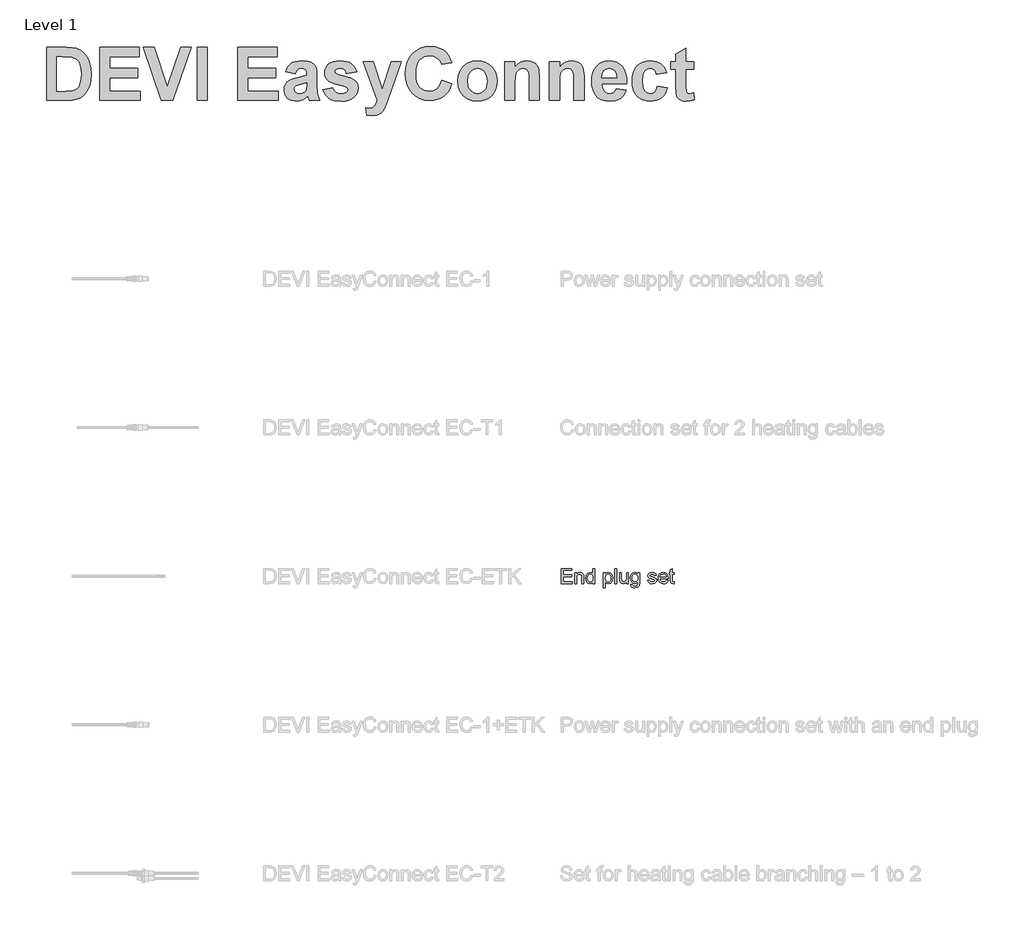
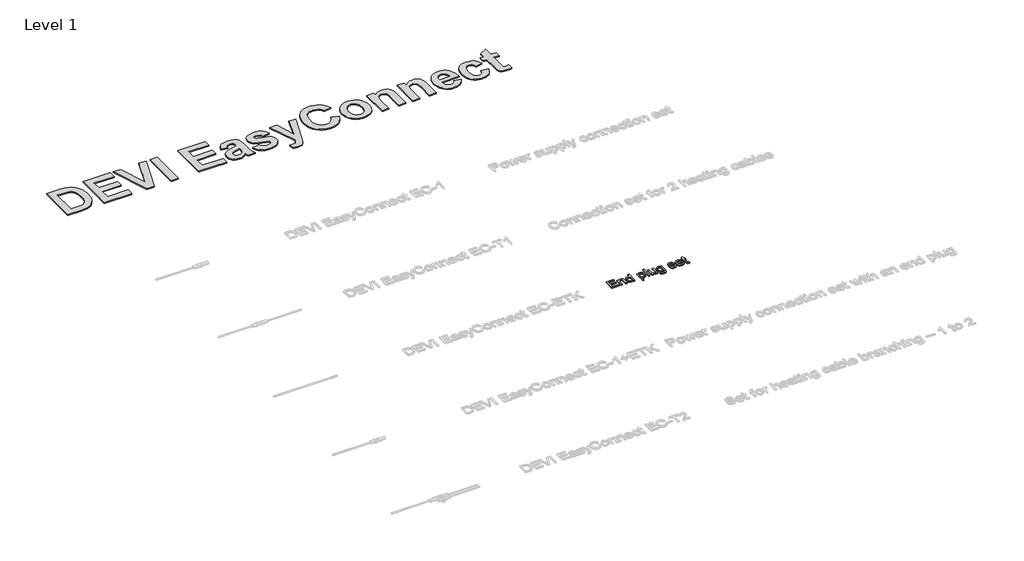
# One storey, part 9 of 11: 2 proxies.
"""IFC4 building model written with IfcOpenShell, lengths in millimetres."""

from ifc_helpers import new_model, si_unit, origin, origin_with_axes, place, context, project, spatial, polyline, outline, extrude, element, save

model = new_model("IFC4")

# Units and contexts
model_context = context("Model", 3, world=origin())
ifc_project = project(units=[si_unit("LENGTHUNIT", "METRE", prefix="MILLI")], contexts=[model_context])

# Site, building, storey
site = spatial("IfcSite", under=ifc_project)
building = spatial("IfcBuilding", under=site)
storey = spatial("IfcBuildingStorey", under=building, Name="Level 1", Elevation=0.0)

# Proxies
placement = place(None, origin())
element("IfcBuildingElementProxy", 1, Name="100mm Arial", ObjectType="100mm Arial", at=placement, inside=storey, context=model_context, shape_type="SweptSolid", body=[
    extrude(outline(polyline([(4544.9544754, 4516.7341496), (4544.9544754, 4617.1904598), (4617.1574483, 4617.1904598), (4617.1574483, 4604.633421), (4557.5115141, 4604.633421), (4557.5115141, 4574.8104539), (4614.0181886, 4574.8104539), (4614.0181886, 4562.2534151), (4557.5115141, 4562.2534151), (4557.5115141, 4529.2911884), (4618.7270781, 4529.2911884), (4618.7270781, 4516.7341496), (4544.9544754, 4516.7341496)])), origin_with_axes(), (0.0, 0.0, 1.0), 10.0),
    extrude(outline(polyline([(4635.9930064, 4516.7341496), (4635.9930064, 4590.5067524), (4648.5500452, 4590.5067524), (4648.5500452, 4580.2060565), (4658.1517653, 4589.1088008), (4671.260627, 4592.0763822), (4683.11869, 4589.6851493), (4691.2120939, 4583.4066299), (4694.976753, 4574.1727918), (4695.6389406, 4562.0326859), (4695.6389406, 4516.7341496), (4683.0819018, 4516.7341496), (4683.0819018, 4560.3404288), (4681.6348993, 4571.450465), (4676.5213396, 4577.3243142), (4667.9006381, 4579.5193435), (4654.2767416, 4574.5897247), (4649.9817193, 4567.4466826), (4648.5500452, 4555.8767939), (4648.5500452, 4516.7341496), (4635.9930064, 4516.7341496)])), origin_with_axes(), (0.0, 0.0, 1.0), 10.0),
    extrude(outline(polyline([(4758.4241344, 4516.7341496), (4758.4241344, 4528.5799499), (4750.1161327, 4518.5183773), (4738.6320831, 4515.1645198), (4723.0829374, 4520.0205621), (4712.0955285, 4533.5708823), (4708.1959793, 4553.5468746), (4711.7889602, 4573.5351297), (4722.5556399, 4587.2939163), (4738.5830322, 4592.0763822), (4750.1590523, 4588.6550797), (4758.4241344, 4579.7645981), (4758.4241344, 4617.1904598), (4770.9811732, 4617.1904598), (4770.9811732, 4516.7341496), (4758.4241344, 4516.7341496)]), holes=[polyline([(4720.7530181, 4553.5959255), (4722.1693638, 4542.2375689), (4726.4184008, 4534.1594934), (4732.592687, 4529.3310423), (4739.78478, 4527.7215585), (4746.9738073, 4529.2574659), (4752.9917436, 4533.8651879), (4757.0660367, 4541.6305636), (4758.4241344, 4552.6394323), (4757.0415113, 4564.6753049), (4752.8936418, 4573.0200949), (4746.7224213, 4577.8945313), (4739.2697452, 4579.5193435), (4732.0040758, 4577.9589107), (4726.0505188, 4573.2776123), (4722.0773933, 4565.236325), (4720.7530181, 4553.5959255)])]), origin_with_axes(), (0.0, 0.0, 1.0), 10.0),
    extrude(outline(polyline([(4829.0574775, 4488.4808124), (4829.0574775, 4590.5067524), (4841.6145163, 4590.5067524), (4841.6145163, 4578.1949683), (4850.2965314, 4588.6060287), (4862.0197043, 4592.0763822), (4877.9367319, 4587.2203399), (4888.3355297, 4573.5351297), (4891.8426713, 4554.1845367), (4887.8818085, 4533.8406624), (4876.3793648, 4519.9837739), (4860.4991254, 4515.1645198), (4849.5730301, 4518.3896186), (4841.6145163, 4526.5443361), (4841.6145163, 4488.4808124), (4829.0574775, 4488.4808124)]), holes=[polyline([(4841.6145163, 4553.0318398), (4842.972614, 4541.7746507), (4847.0469071, 4533.9019761), (4853.058712, 4529.2666629), (4860.2293452, 4527.7215585), (4867.5164744, 4529.3218452), (4873.6815635, 4534.1227052), (4877.8846153, 4542.2835542), (4879.2856326, 4553.9638075), (4877.9183378, 4565.1596829), (4873.8164536, 4573.1427222), (4867.8138457, 4577.9251881), (4860.74438, 4579.5193435), (4853.6473232, 4577.8240206), (4847.4147891, 4572.738052), (4843.0645845, 4564.4208532), (4841.6145163, 4553.0318398)])]), origin_with_axes(), (0.0, 0.0, 1.0), 10.0),
    extrude(outline(polyline([(4905.96934, 4516.7341496), (4905.96934, 4617.1904598), (4918.5263787, 4617.1904598), (4918.5263787, 4516.7341496), (4905.96934, 4516.7341496)])), origin_with_axes(), (0.0, 0.0, 1.0), 10.0),
    extrude(outline(polyline([(4984.4508323, 4516.7341496), (4984.4508323, 4529.4138157), (4974.6161203, 4518.7268438), (4961.7893014, 4515.1645198), (4949.9802893, 4517.6661173), (4941.8378345, 4523.9446367), (4938.0977009, 4533.1907375), (4937.3619369, 4544.8648595), (4937.3619369, 4590.5067524), (4949.9189756, 4590.5067524), (4949.9189756, 4550.7754969), (4950.6792651, 4537.9732035), (4955.645672, 4530.456148), (4965.0021374, 4527.7215585), (4975.4867743, 4530.5174617), (4982.4152186, 4538.132619), (4984.4508323, 4552.1243975), (4984.4508323, 4590.5067524), (4997.007871, 4590.5067524), (4997.007871, 4516.7341496), (4984.4508323, 4516.7341496)])), origin_with_axes(), (0.0, 0.0, 1.0), 10.0),
    extrude(outline(polyline([(5011.1345396, 4510.4556302), (5023.6915784, 4508.8860004), (5027.7628058, 4502.2641245), (5039.9519626, 4499.4682213), (5052.803307, 4502.6320065), (5058.9346736, 4511.5102253), (5059.7930649, 4526.1519287), (5050.9516343, 4519.0885944), (5040.1726918, 4516.7341496), (5027.2263112, 4519.4748705), (5017.5724746, 4527.6970331), (5011.566801, 4539.7512998), (5009.5649098, 4553.988333), (5013.1578906, 4573.4492905), (5023.5566883, 4587.2203399), (5039.5595551, 4592.0763822), (5050.7615619, 4589.32953), (5059.7930649, 4581.0889733), (5059.7930649, 4590.5067524), (5072.3501036, 4590.5067524), (5072.3501036, 4526.8141163), (5068.9165384, 4502.42354), (5058.039494, 4491.0805118), (5039.7067079, 4486.9111825), (5028.0233889, 4488.3796448), (5018.8232733, 4492.7850317), (5012.921833, 4500.1396059), (5011.1345396, 4510.4556302)]), holes=[polyline([(5022.1219486, 4554.8467243), (5023.4616522, 4543.3289522), (5027.480763, 4535.4102922), (5033.5232247, 4530.8209643), (5040.9329813, 4529.2911884), (5048.2875555, 4530.8117673), (5054.3606741, 4535.373504), (5058.4349672, 4543.1909964), (5059.7930649, 4554.4788423), (5058.3951133, 4565.3650837), (5054.2012585, 4573.2040359), (5048.0392351, 4577.9405166), (5040.7367775, 4579.5193435), (5033.5661443, 4577.965042), (5027.5543394, 4573.3021377), (5023.4800463, 4565.5796815), (5022.1219486, 4554.8467243)])]), origin_with_axes(), (0.0, 0.0, 1.0), 10.0),
    extrude(outline(polyline([(5125.7175184, 4538.7089675), (5138.2745572, 4540.2785973), (5144.0870927, 4530.9589201), (5157.4044209, 4527.7215585), (5170.2067144, 4530.68914), (5174.3760436, 4537.6543724), (5170.1821889, 4543.2952297), (5157.2572681, 4546.8759477), (5138.3481336, 4553.0195771), (5130.0953142, 4560.193276), (5127.2871483, 4570.3222936), (5129.5434912, 4579.678759), (5135.6993832, 4586.8279324), (5143.6824225, 4590.5435406), (5154.4858904, 4592.0763822), (5169.765256, 4589.6115729), (5179.4773406, 4582.940646), (5183.7938227, 4571.6711942), (5171.2367839, 4570.1015644), (5166.5156317, 4577.0300086), (5155.4669091, 4579.5193435), (5143.4494306, 4577.1403732), (5139.844187, 4571.5976178), (5141.3402405, 4567.9433233), (5146.0246045, 4565.1719456), (5156.8403352, 4562.4986698), (5175.2712232, 4556.5880324), (5183.8306109, 4549.8925801), (5186.9330824, 4538.9787476), (5183.2910507, 4526.9612691), (5172.7818883, 4518.2424658), (5157.2327427, 4515.1645198), (5144.5714707, 4516.6483105), (5135.3315012, 4521.0996826), (5129.1633464, 4528.4695853), (5125.7175184, 4538.7089675)])), origin_with_axes(), (0.0, 0.0, 1.0), 10.0),
    extrude(outline(polyline([(5252.7103831, 4538.7089675), (5265.0221672, 4537.1393376), (5260.5861235, 4527.86258), (5253.5074608, 4520.9280044), (5243.9455946, 4516.6053909), (5232.0599405, 4515.1645198), (5217.3262666, 4517.6507889), (5205.9893698, 4525.1095964), (5198.7604886, 4537.0565642), (5196.3508615, 4553.0073143), (5198.785014, 4569.4945591), (5206.0874716, 4581.8247373), (5217.2710843, 4589.513471), (5231.348702, 4592.0763822), (5244.9879269, 4589.5196024), (5255.886431, 4581.8492628), (5263.0325388, 4569.54361), (5265.4145747, 4553.0808907), (5265.3409983, 4549.6963764), (5208.9079003, 4549.6963764), (5211.0814697, 4540.2969914), (5216.1306501, 4533.3869413), (5223.4177793, 4529.1379042), (5232.3051951, 4527.7215585), (5244.6169792, 4530.3457834), (5252.7103831, 4538.7089675)]), holes=[polyline([(5208.9079003, 4562.2534151), (5252.8575359, 4562.2534151), (5247.8298153, 4573.6332315), (5240.5089636, 4578.0478155), (5231.299651, 4579.5193435), (5215.8363445, 4574.8227166), (5210.9711051, 4569.3320779), (5208.9079003, 4562.2534151)])]), origin_with_axes(), (0.0, 0.0, 1.0), 10.0),
    extrude(outline(polyline([(5304.6553209, 4527.2065237), (5306.2249507, 4516.3662676), (5296.8316971, 4515.1645198), (5286.310272, 4517.2491844), (5281.0618222, 4522.7183634), (5279.5412433, 4536.9676593), (5279.5412433, 4577.9497136), (5270.1234642, 4577.9497136), (5270.1234642, 4590.5067524), (5279.5412433, 4590.5067524), (5279.5412433, 4608.4348683), (5292.0982821, 4615.8170336), (5292.0982821, 4590.5067524), (5304.6553209, 4590.5067524), (5304.6553209, 4577.9497136), (5292.0982821, 4577.9497136), (5292.0982821, 4537.3355413), (5292.7604697, 4530.8608182), (5294.906448, 4528.5676871), (5299.1861419, 4527.7215585), (5304.6553209, 4527.2065237)])), origin_with_axes(), (0.0, 0.0, 1.0), 10.0),
])
element("IfcBuildingElementProxy", 2, Name="350mm Arial", ObjectType="350mm Arial", at=placement, inside=storey, context=model_context, shape_type="SweptSolid", body=[
    extrude(outline(polyline([(1081.9304172, 8123.8249396), (1214.156744, 8123.8249396), (1253.5678059, 8122.1200791), (1282.3511657, 8117.0054974), (1311.6216285, 8104.1304792), (1336.3753179, 8084.1039031), (1356.1804836, 8057.8446225), (1370.605375, 8026.2714909), (1379.4064408, 7988.044975), (1382.3401294, 7941.8255414), (1379.5946397, 7900.8203242), (1371.3581706, 7865.8374715), (1355.0180787, 7830.5889263), (1332.9213147, 7802.7797725), (1310.8245508, 7786.5282447), (1282.0854731, 7774.2621053), (1254.121332, 7768.6161385), (1218.0535681, 7766.7341496), (1081.9304172, 7766.7341496), (1081.9304172, 8123.8249396)]), holes=[polyline([(1149.9477106, 8061.475754), (1149.9477106, 7829.0833352), (1207.8686869, 7829.0833352), (1254.8077044, 7832.4487742), (1272.0666498, 7838.2165166), (1286.1151435, 7847.0175824), (1297.4181475, 7860.6453962), (1306.4406237, 7880.8933828), (1312.352283, 7908.7468187), (1314.3228361, 7945.1909804), (1312.352283, 7981.1258981), (1306.4406237, 8007.6287302), (1296.9974676, 8027.0242865), (1284.432424, 8041.6373768), (1268.3912362, 8051.8665401), (1248.5196474, 8058.110315), (1184.8419991, 8061.475754), (1149.9477106, 8061.475754)])]), origin_with_axes(), (0.0, 0.0, 1.0), 10.0),
    extrude(outline(polyline([(1439.0212072, 7766.7341496), (1439.0212072, 8123.8249396), (1705.4222728, 8123.8249396), (1705.4222728, 8061.475754), (1507.0385005, 8061.475754), (1507.0385005, 7982.1222452), (1694.0860572, 7982.1222452), (1694.0860572, 7919.7730596), (1507.0385005, 7919.7730596), (1507.0385005, 7829.0833352), (1711.0903805, 7829.0833352), (1711.0903805, 7766.7341496), (1439.0212072, 7766.7341496)])), origin_with_axes(), (0.0, 0.0, 1.0), 10.0),
    extrude(outline(polyline([(1854.1215377, 7766.7341496), (1733.7628116, 8123.8249396), (1805.4998007, 8123.8249396), (1895.3038833, 7857.4238741), (1985.3736585, 8123.8249396), (2056.844955, 8123.8249396), (1930.1096076, 7766.7341496), (1854.1215377, 7766.7341496)])), origin_with_axes(), (0.0, 0.0, 1.0), 10.0),
    extrude(outline(polyline([(2096.5217094, 7766.7341496), (2096.5217094, 8123.8249396), (2164.5390027, 8123.8249396), (2164.5390027, 7766.7341496), (2096.5217094, 7766.7341496)])), origin_with_axes(), (0.0, 0.0, 1.0), 10.0),
    extrude(outline(polyline([(2368.5908827, 7766.7341496), (2368.5908827, 8123.8249396), (2634.9919483, 8123.8249396), (2634.9919483, 8061.475754), (2436.6081761, 8061.475754), (2436.6081761, 7982.1222452), (2623.6557327, 7982.1222452), (2623.6557327, 7919.7730596), (2436.6081761, 7919.7730596), (2436.6081761, 7829.0833352), (2640.660056, 7829.0833352), (2640.660056, 7766.7341496), (2368.5908827, 7766.7341496)])), origin_with_axes(), (0.0, 0.0, 1.0), 10.0),
    extrude(outline(polyline([(2754.0222116, 7948.1135985), (2691.673026, 7959.449814), (2705.1901346, 7992.129998), (2725.9030832, 8015.0681216), (2739.5281294, 8022.972475), (2756.0923994, 8028.6184418), (2798.0386111, 8033.1352152), (2835.9662229, 8030.400796), (2862.7790296, 8022.1975384), (2880.8904052, 8009.7985527), (2892.7137238, 7994.4769488), (2899.2231913, 7970.6642538), (2901.3930138, 7932.7919947), (2901.3930138, 7852.3757156), (2904.9798633, 7801.7170023), (2918.3973371, 7766.7341496), (2850.3800438, 7766.7341496), (2844.0034226, 7788.3438105), (2841.6121896, 7796.9345364), (2824.010058, 7781.2697463), (2805.21231, 7770.0553065), (2785.1746633, 7763.313358), (2763.852836, 7761.0660418), (2729.1688875, 7766.5238097), (2714.9072862, 7773.3460195), (2702.699267, 7782.8971132), (2685.9274246, 7807.59545), (2680.3368105, 7838.0283177), (2682.8276782, 7858.8851831), (2690.3002812, 7877.3508155), (2702.2675166, 7892.6059962), (2718.2422812, 7903.8315065), (2740.1840578, 7912.4443734), (2770.0523289, 7919.8616238), (2833.3757205, 7936.7773829), (2833.3757205, 7943.9510818), (2831.2612506, 7961.6196366), (2824.9178409, 7973.3543909), (2812.7291951, 7979.9302816), (2793.0790167, 7982.1222452), (2778.9751704, 7980.2402562), (2768.3696094, 7974.5942895), (2760.3545508, 7964.2101389), (2754.0222116, 7948.1135985)]), holes=[polyline([(2833.3757205, 7885.7644129), (2795.0274288, 7876.3323273), (2760.6645254, 7865.571779), (2751.4317092, 7855.8961419), (2748.3541038, 7843.8735539), (2750.8228304, 7831.8177543), (2758.2290103, 7821.5110974), (2769.4434501, 7814.4370332), (2783.3369565, 7812.0790118), (2800.0091641, 7814.8245015), (2815.840012, 7823.0609706), (2825.3606618, 7832.3159279), (2830.8959233, 7843.430733), (2833.3757205, 7873.4539914), (2833.3757205, 7885.7644129)])]), origin_with_axes(), (0.0, 0.0, 1.0), 10.0),
    extrude(outline(polyline([(2941.0697683, 7840.4195507), (3009.0870616, 7851.7557663), (3015.5633175, 7834.6185967), (3026.4899237, 7822.1753288), (3042.243278, 7814.6030911), (3063.199778, 7812.0790118), (3085.9386323, 7814.4923858), (3102.2565832, 7821.7325079), (3108.898897, 7829.6147203), (3111.1130016, 7839.7996014), (3106.4190998, 7852.5528439), (3084.1894896, 7861.4978265), (3018.4970061, 7878.9006887), (2982.2521138, 7894.7979597), (2969.1944319, 7906.361121), (2959.8675163, 7919.972329), (2954.2713669, 7935.6315838), (2952.4059838, 7953.3388853), (2954.0056744, 7969.5405958), (2958.8047461, 7984.4027729), (2966.803199, 7997.9254167), (2978.001033, 8010.1085273), (2992.564306, 8020.1827032), (3010.6590759, 8027.3785432), (3032.2853425, 8031.6960472), (3057.4431061, 8033.1352152), (3102.0573138, 8028.4855955), (3119.4324996, 8022.6735709), (3133.5197401, 8014.5367365), (3154.5315928, 7991.4657666), (3167.7940794, 7959.449814), (3099.776786, 7948.1135985), (3094.7729096, 7962.6602657), (3086.6692868, 7973.3543909), (3074.9788145, 7979.9302816), (3059.2143897, 7982.1222452), (3039.8409745, 7980.2623973), (3026.8884626, 7974.6828537), (3022.0395735, 7968.571925), (3020.4232771, 7960.866841), (3022.0395735, 7954.2023861), (3026.8884626, 7948.5564194), (3046.2729484, 7940.4306555), (3087.0678256, 7929.5151198), (3130.785321, 7915.7655303), (3158.937661, 7899.1376047), (3174.0821364, 7877.1958281), (3179.1302949, 7848.0360705), (3177.300891, 7830.8186396), (3171.8126792, 7814.8577131), (3162.6656596, 7800.1532909), (3149.8598321, 7786.7053731), (3133.4671552, 7775.4881657), (3113.5595872, 7767.4758747), (3090.1371281, 7762.6685), (3063.199778, 7761.0660418), (3016.5596646, 7766.4020339), (2997.316328, 7773.072024), (2980.7908048, 7782.4100102), (2966.9332776, 7794.0395946), (2955.6939291, 7807.5843795), (2941.0697683, 7840.4195507)])), origin_with_axes(), (0.0, 0.0, 1.0), 10.0),
    extrude(outline(polyline([(3213.1389416, 8027.4671074), (3281.1562349, 8027.4671074), (3340.6713666, 7842.8993479), (3400.1864982, 8027.4671074), (3468.2037916, 8027.4671074), (3379.9938643, 7777.6275442), (3363.6094902, 7731.2199118), (3347.4465266, 7698.1854712), (3329.7779719, 7679.6755567), (3305.2014109, 7668.6493158), (3272.2998165, 7664.7082096), (3235.8113727, 7668.6050337), (3230.1432649, 7718.9980544), (3257.155341, 7715.7211796), (3276.4291216, 7719.3190996), (3289.9683712, 7730.1128595), (3299.3893863, 7746.464022), (3306.3084632, 7766.7341496), (3213.1389416, 8027.4671074)])), origin_with_axes(), (0.0, 0.0, 1.0), 10.0),
    extrude(outline(polyline([(3740.2729649, 7902.7687363), (3808.2902582, 7880.0963052), (3798.8969194, 7853.2032372), (3786.8355846, 7830.0021886), (3772.1062538, 7810.4931594), (3754.7089269, 7794.6761497), (3734.7155623, 7782.4515246), (3712.1981186, 7773.7196496), (3687.1565955, 7768.4805246), (3659.5909932, 7766.7341496), (3625.5325292, 7769.7176556), (3594.6513053, 7778.6681734), (3566.9473215, 7793.5857032), (3542.4205778, 7814.4702448), (3522.3497196, 7840.5302559), (3508.0133923, 7870.9741942), (3499.4115959, 7905.8020596), (3496.5443305, 7945.0138521), (3499.4365046, 7986.3622555), (3508.113027, 8022.8174877), (3522.5738977, 8054.3795488), (3542.8191166, 8081.0484387), (3567.7803783, 8102.242955), (3596.3893774, 8117.3818952), (3628.6461138, 8126.4652593), (3664.5505875, 8129.4930474), (3695.9465908, 8126.9966444), (3724.2428476, 8119.5074356), (3749.4393579, 8107.0254209), (3771.5361218, 8089.5506004), (3792.9907954, 8060.8336637), (3808.2902582, 8021.7989996), (3740.2729649, 8010.462784), (3729.8556027, 8033.9876454), (3712.0652723, 8051.9551043), (3688.2747183, 8063.3466724), (3659.8566858, 8067.1438618), (3639.6446784, 8065.4196279), (3621.4309004, 8060.246926), (3605.2153519, 8051.6257562), (3590.9980327, 8039.5561185), (3579.4321038, 8023.6284035), (3571.170726, 8003.4330019), (3566.2138993, 7978.9699137), (3564.5616238, 7950.2391389), (3566.164082, 7919.8284122), (3570.9714566, 7894.1337283), (3578.9837476, 7873.1550872), (3590.2009551, 7856.8924889), (3603.9865238, 7844.7259842), (3619.7038989, 7836.0356236), (3637.3530802, 7830.8214073), (3656.9340677, 7829.0833352), (3685.0421256, 7833.5226149), (3708.9655258, 7846.8404541), (3727.7079213, 7869.7010841), (3740.2729649, 7902.7687363)])), origin_with_axes(), (0.0, 0.0, 1.0), 10.0),
    extrude(outline(polyline([(3847.9670127, 7900.8203242), (3852.1627409, 7934.5522078), (3864.7499255, 7967.1991801), (3885.0200532, 7995.5065075), (3912.2646103, 8016.219456), (3944.7898068, 8028.9062754), (3980.9018529, 8033.1352152), (4008.8909027, 8030.7384469), (4034.2285622, 8023.5481422), (4056.9148314, 8011.5643011), (4076.9497105, 7994.7869235), (4093.3202463, 7974.3452027), (4105.0134863, 7951.3683323), (4112.0294302, 7925.856312), (4114.3680782, 7897.809142), (4112.0045215, 7869.5377938), (4104.9138516, 7843.7960602), (4093.0960683, 7820.5839411), (4076.5511716, 7799.9014365), (4056.4249608, 7782.9109513), (4033.8632349, 7770.7748905), (4008.865994, 7763.493254), (3981.433238, 7761.0660418), (3946.7492894, 7765.1067827), (3913.7259193, 7777.2290054), (3885.3853804, 7797.1670173), (3864.7499255, 7824.655126), (3852.1627409, 7859.328004), (3847.9670127, 7900.8203242)]), holes=[polyline([(3915.984306, 7897.1006285), (3920.6892783, 7860.7339604), (3926.5704936, 7846.1623845), (3934.8041951, 7833.9986474), (3955.8271183, 7817.5589207), (3981.2561096, 7812.0790118), (4006.6629599, 7817.5589207), (4027.61946, 7833.9986474), (4035.8144146, 7846.1955961), (4041.6679536, 7860.8668067), (4046.3507849, 7897.6320136), (4041.6679536, 7933.6001428), (4027.61946, 7960.2026096), (4006.6629599, 7976.6423363), (3981.2561096, 7982.1222452), (3955.8271183, 7976.6423363), (3934.8041951, 7960.2026096), (3926.5704936, 7948.0388725), (3920.6892783, 7933.4672966), (3915.984306, 7897.1006285)])]), origin_with_axes(), (0.0, 0.0, 1.0), 10.0),
    extrude(outline(polyline([(4397.7734671, 7766.7341496), (4329.7561738, 7766.7341496), (4329.7561738, 7900.73176), (4328.6934035, 7935.8031769), (4325.5050929, 7955.8186825), (4319.9034083, 7966.9113466), (4311.600516, 7975.2142388), (4300.994955, 7980.3952436), (4288.485264, 7982.1222452), (4272.0233963, 7979.6535185), (4257.3549533, 7972.2473386), (4245.7530452, 7960.7561358), (4238.4907821, 7946.0323402), (4234.6714517, 7922.7731713), (4233.3983415, 7885.6758488), (4233.3983415, 7766.7341496), (4165.3810482, 7766.7341496), (4165.3810482, 8027.4671074), (4233.3983415, 8027.4671074), (4233.3983415, 7989.9158934), (4250.6074695, 8008.8243466), (4269.9089264, 8022.3303847), (4291.3027121, 8030.4340075), (4314.7888267, 8033.1352152), (4335.4685636, 8031.0760979), (4354.2884527, 8024.898746), (4370.0085954, 8015.5330836), (4381.389093, 8003.9090344), (4389.1938118, 7990.3033617), (4394.1866176, 7974.9928283), (4397.7734671, 7928.629478), (4397.7734671, 7766.7341496)])), origin_with_axes(), (0.0, 0.0, 1.0), 10.0),
    extrude(outline(polyline([(4698.1831793, 7766.7341496), (4630.165886, 7766.7341496), (4630.165886, 7900.73176), (4629.1031158, 7935.8031769), (4625.9148051, 7955.8186825), (4620.3131205, 7966.9113466), (4612.0102282, 7975.2142388), (4601.4046672, 7980.3952436), (4588.8949762, 7982.1222452), (4572.4331085, 7979.6535185), (4557.7646655, 7972.2473386), (4546.1627574, 7960.7561358), (4538.9004943, 7946.0323402), (4535.0811639, 7922.7731713), (4533.8080537, 7885.6758488), (4533.8080537, 7766.7341496), (4465.7907604, 7766.7341496), (4465.7907604, 8027.4671074), (4533.8080537, 8027.4671074), (4533.8080537, 7989.9158934), (4551.0171818, 8008.8243466), (4570.3186386, 8022.3303847), (4591.7124243, 8030.4340075), (4615.1985389, 8033.1352152), (4635.8782758, 8031.0760979), (4654.6981649, 8024.898746), (4670.4183076, 8015.5330836), (4681.7988052, 8003.9090344), (4689.603524, 7990.3033617), (4694.5963298, 7974.9928283), (4698.1831793, 7928.629478), (4698.1831793, 7766.7341496)])), origin_with_axes(), (0.0, 0.0, 1.0), 10.0),
    extrude(outline(polyline([(4913.5712748, 7846.0876585), (4981.5885682, 7834.7514429), (4965.0270658, 7803.0122535), (4941.0261719, 7779.8859309), (4909.8294381, 7765.7710141), (4871.6804158, 7761.0660418), (4840.8766855, 7763.8392078), (4814.3572477, 7772.1587059), (4792.1221022, 7786.0245359), (4774.1712492, 7805.436698), (4763.244643, 7824.3617571), (4755.4399243, 7845.6226965), (4750.757093, 7869.2195163), (4749.1961493, 7895.1522164), (4751.2663371, 7925.729001), (4757.4769005, 7952.8075002), (4767.8278395, 7976.3877142), (4782.3191541, 7996.469643), (4799.9766383, 8012.5108308), (4819.826086, 8023.9688221), (4841.8674973, 8030.8436169), (4866.1008722, 8033.1352152), (4893.0299194, 8030.782729), (4916.9588549, 8023.7252706), (4937.8876786, 8011.9628399), (4955.8163906, 7995.4954369), (4970.1029006, 7974.1680744), (4980.1051181, 7947.8257649), (4985.8230432, 7916.4685085), (4987.2566759, 7880.0963052), (4817.2134426, 7880.0963052), (4821.5752287, 7851.4457916), (4833.2435599, 7829.968977), (4850.4471527, 7816.5515031), (4871.4147232, 7812.0790118), (4885.6956979, 7814.093847), (4897.5411575, 7820.1383526), (4906.8625379, 7830.6553494), (4913.5712748, 7846.0876585)]), holes=[polyline([(4919.2393826, 7919.7730596), (4915.099007, 7946.66336), (4904.0949071, 7966.2249741), (4888.1090719, 7978.1479274), (4869.0234903, 7982.1222452), (4848.8751384, 7977.9375875), (4832.5350465, 7965.3836144), (4821.8187802, 7945.5673782), (4818.364777, 7919.7730596), (4919.2393826, 7919.7730596)])]), origin_with_axes(), (0.0, 0.0, 1.0), 10.0),
    extrude(outline(polyline([(5253.6577415, 7953.7817063), (5185.6404482, 7942.4454907), (5180.4262318, 7959.7487182), (5171.1602041, 7972.1587745), (5158.1744806, 7979.6313775), (5141.8011771, 7982.1222452), (5120.2357983, 7977.4504844), (5103.5414496, 7963.4352023), (5092.8473243, 7938.4822435), (5089.2826159, 7900.9974526), (5092.9912411, 7859.4387092), (5104.1171168, 7832.1830816), (5121.4867674, 7817.1050293), (5143.9267175, 7812.0790118), (5160.9199703, 7814.9462773), (5174.5256431, 7823.5480737), (5184.6773127, 7839.1685816), (5191.3085559, 7863.0919818), (5259.3258493, 7851.7557663), (5244.4359958, 7812.3557749), (5233.4623399, 7796.7823167), (5220.1361978, 7783.9598834), (5204.402217, 7773.9438277), (5186.2050448, 7766.7895022), (5142.4211264, 7761.0660418), (5116.1480076, 7763.3188933), (5092.6812665, 7770.0774476), (5072.0209029, 7781.3417047), (5054.166917, 7797.1116647), (5039.7724694, 7816.8614778), (5029.4907212, 7840.065294), (5023.3216723, 7866.7231134), (5021.2653226, 7896.8349359), (5023.3078341, 7927.2871771), (5029.4353686, 7954.1691746), (5039.6479261, 7977.4809284), (5053.9455065, 7997.2224385), (5071.7303017, 8012.9342783), (5092.4045034, 8024.157021), (5115.9681116, 8030.8906666), (5142.4211264, 8033.1352152), (5183.3599204, 8028.2309735), (5200.3254969, 8022.1006714), (5214.9551931, 8013.5182484), (5238.0925861, 7988.7756295), (5253.6577415, 7953.7817063)])), origin_with_axes(), (0.0, 0.0, 1.0), 10.0),
    extrude(outline(polyline([(5435.0371904, 8027.4671074), (5435.0371904, 7976.4541374), (5384.0242204, 7976.4541374), (5384.0242204, 7864.597573), (5385.5740936, 7825.0536648), (5392.6149462, 7815.7544255), (5405.988138, 7812.0790118), (5437.8712443, 7818.6327614), (5440.7052981, 7770.276717), (5414.4681586, 7763.3687106), (5384.9984264, 7761.0660418), (5366.8870508, 7762.6601971), (5350.635523, 7767.4426631), (5337.3619659, 7774.7492083), (5328.1845023, 7783.9156013), (5322.1289263, 7795.805343), (5318.2210316, 7811.2819342), (5316.006927, 7860.789313), (5316.006927, 7976.4541374), (5281.9982804, 7976.4541374), (5281.9982804, 8027.4671074), (5316.006927, 8027.4671074), (5316.006927, 8078.4800774), (5384.0242204, 8118.1568318), (5384.0242204, 8027.4671074), (5435.0371904, 8027.4671074)])), origin_with_axes(), (0.0, 0.0, 1.0), 10.0),
])

save(model, "model.ifc")
